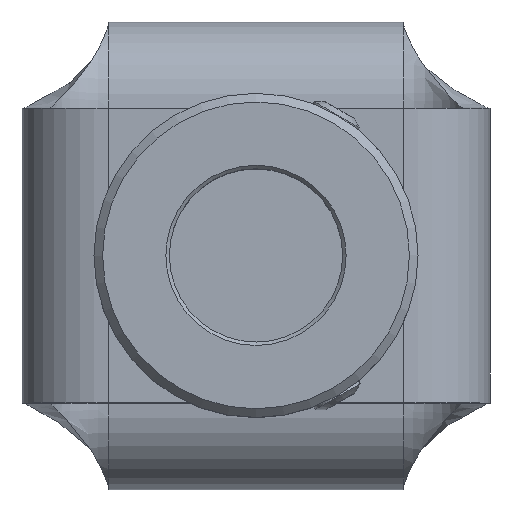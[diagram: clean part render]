
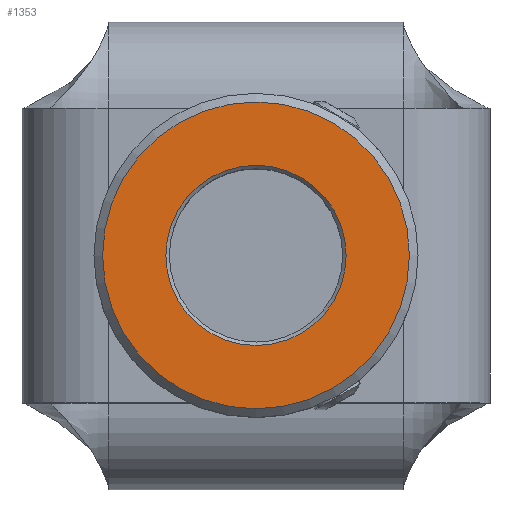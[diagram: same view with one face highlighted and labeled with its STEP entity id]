
A CAD part, top view. The second image highlights one B-rep face of the part: STEP entity #1353.
In plain terms, the highlighted planar face has unit normal (0, 0, 1).
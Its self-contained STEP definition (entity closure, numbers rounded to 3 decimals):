
#53=FACE_BOUND('',#330,.T.);
#225=FACE_OUTER_BOUND('',#329,.T.);
#329=EDGE_LOOP('',(#1175));
#330=EDGE_LOOP('',(#1176));
#418=CIRCLE('',#1486,5.2);
#420=CIRCLE('',#1490,8.85);
#676=VERTEX_POINT('',#2722);
#680=VERTEX_POINT('',#2798);
#842=EDGE_CURVE('',#676,#676,#418,.T.);
#846=EDGE_CURVE('',#680,#680,#420,.T.);
#1175=ORIENTED_EDGE('',*,*,#846,.F.);
#1176=ORIENTED_EDGE('',*,*,#842,.F.);
#1274=PLANE('',#1489);
#1353=ADVANCED_FACE('',(#225,#53),#1274,.F.);
#1486=AXIS2_PLACEMENT_3D('',#2723,#1805,#1806);
#1489=AXIS2_PLACEMENT_3D('',#2797,#1811,#1812);
#1490=AXIS2_PLACEMENT_3D('',#2799,#1813,#1814);
#1805=DIRECTION('center_axis',(0.,0.,1.));
#1806=DIRECTION('ref_axis',(-1.,0.,0.));
#1811=DIRECTION('center_axis',(0.,0.,-1.));
#1812=DIRECTION('ref_axis',(-1.,0.,0.));
#1813=DIRECTION('center_axis',(0.,0.,-1.));
#1814=DIRECTION('ref_axis',(-1.,0.,0.));
#2722=CARTESIAN_POINT('',(5.2,0.,9.));
#2723=CARTESIAN_POINT('Origin',(0.,0.,9.));
#2797=CARTESIAN_POINT('Origin',(0.,0.,9.));
#2798=CARTESIAN_POINT('',(8.85,0.,9.));
#2799=CARTESIAN_POINT('Origin',(0.,0.,9.));
